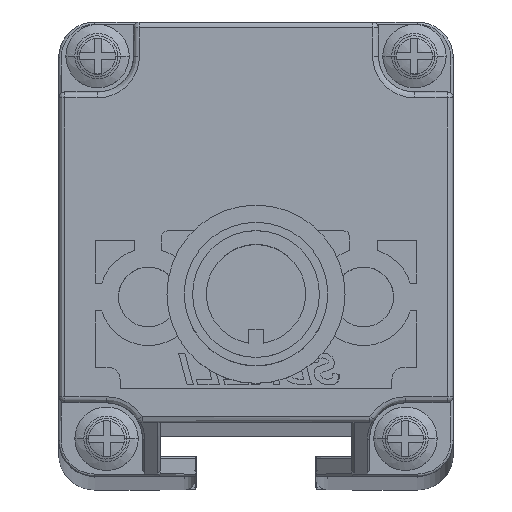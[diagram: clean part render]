
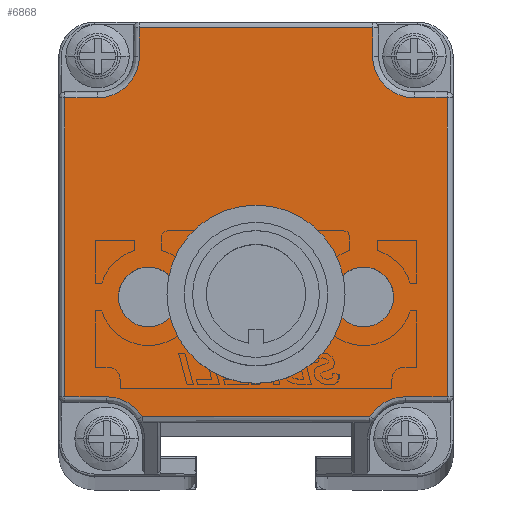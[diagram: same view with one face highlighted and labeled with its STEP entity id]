
A CAD part, top view. The second image highlights one B-rep face of the part: STEP entity #6868.
In plain terms, the highlighted planar face has unit normal (0, 0, 1).
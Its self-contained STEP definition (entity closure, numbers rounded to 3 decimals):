
#2781=CARTESIAN_POINT('',(0.65,-8.054,
525.276));
#2782=DIRECTION('',(0.,0.,1.));
#2783=DIRECTION('',(1.,0.,0.));
#2784=AXIS2_PLACEMENT_3D('',#2781,#2782,#2783);
#2786=CARTESIAN_POINT('',(0.65,-8.054,
525.276));
#2787=DIRECTION('',(0.,0.,1.));
#2788=DIRECTION('',(-1.,0.,0.));
#2789=AXIS2_PLACEMENT_3D('',#2786,#2787,#2788);
#2791=CARTESIAN_POINT('',(9.65,-8.055,525.276));
#2792=DIRECTION('',(0.,0.,1.));
#2793=DIRECTION('',(1.,-0.007,0.));
#2794=AXIS2_PLACEMENT_3D('',#2791,#2792,#2793);
#2796=CARTESIAN_POINT('',(9.65,-8.055,525.276));
#2797=DIRECTION('',(0.,0.,1.));
#2798=DIRECTION('',(-1.,0.007,0.));
#2799=AXIS2_PLACEMENT_3D('',#2796,#2797,#2798);
#2801=CARTESIAN_POINT('',(-8.35,-8.054,
525.276));
#2802=DIRECTION('',(0.,0.,1.));
#2803=DIRECTION('',(1.,0.007,0.));
#2804=AXIS2_PLACEMENT_3D('',#2801,#2802,#2803);
#2806=CARTESIAN_POINT('',(-8.35,-8.054,
525.276));
#2807=DIRECTION('',(0.,0.,1.));
#2808=DIRECTION('',(-1.,-0.007,0.));
#2809=AXIS2_PLACEMENT_3D('',#2806,#2807,#2808);
#2811=CARTESIAN_POINT('',(-11.85,-19.904,
525.276));
#2812=DIRECTION('',(0.,0.,1.));
#2813=DIRECTION('',(0.849,0.528,0.));
#2814=AXIS2_PLACEMENT_3D('',#2811,#2812,#2813);
#2816=CARTESIAN_POINT('',(-12.6,12.094,525.276));
#2817=DIRECTION('',(0.,0.,1.));
#2818=DIRECTION('',(0.,-1.,0.));
#2819=AXIS2_PLACEMENT_3D('',#2816,#2817,#2818);
#2821=CARTESIAN_POINT('',(13.9,12.094,525.276));
#2822=DIRECTION('',(0.,0.,1.));
#2823=DIRECTION('',(-1.,0.,0.));
#2824=AXIS2_PLACEMENT_3D('',#2821,#2822,#2823);
#2826=CARTESIAN_POINT('',(13.15,-19.904,525.276));
#2827=DIRECTION('',(0.,0.,1.));
#2828=DIRECTION('',(0.,1.,0.));
#2829=AXIS2_PLACEMENT_3D('',#2826,#2827,#2828);
#4545=DIRECTION('',(1.,0.,0.));
#4546=VECTOR('',#4545,19.056);
#4547=CARTESIAN_POINT('',(-8.878,-18.056,
525.276));
#4548=LINE('',#4547,#4546);
#4926=DIRECTION('',(0.,1.,0.));
#4927=VECTOR('',#4926,24.998);
#4928=CARTESIAN_POINT('',(16.65,-16.404,525.276));
#4929=LINE('',#4928,#4927);
#4949=DIRECTION('',(1.,0.,0.));
#4950=VECTOR('',#4949,3.5);
#4951=CARTESIAN_POINT('',(13.15,-16.404,525.276));
#4952=LINE('',#4951,#4950);
#4973=DIRECTION('',(-1.,0.,0.));
#4974=VECTOR('',#4973,2.75);
#4975=CARTESIAN_POINT('',(16.65,8.594,525.276));
#4976=LINE('',#4975,#4974);
#5000=DIRECTION('',(0.,1.,0.));
#5001=VECTOR('',#5000,2.35);
#5002=CARTESIAN_POINT('',(10.4,12.094,525.276));
#5003=LINE('',#5002,#5001);
#5211=DIRECTION('',(-1.,0.,0.));
#5212=VECTOR('',#5211,19.5);
#5213=CARTESIAN_POINT('',(10.4,14.444,525.276));
#5214=LINE('',#5213,#5212);
#5250=DIRECTION('',(0.,-1.,0.));
#5251=VECTOR('',#5250,2.35);
#5252=CARTESIAN_POINT('',(-9.1,14.444,525.276));
#5253=LINE('',#5252,#5251);
#5277=DIRECTION('',(-1.,0.,0.));
#5278=VECTOR('',#5277,2.75);
#5279=CARTESIAN_POINT('',(-12.6,8.594,525.276));
#5280=LINE('',#5279,#5278);
#5448=DIRECTION('',(0.,-1.,0.));
#5449=VECTOR('',#5448,24.998);
#5450=CARTESIAN_POINT('',(-15.35,8.594,525.276));
#5451=LINE('',#5450,#5449);
#5487=DIRECTION('',(1.,0.,0.));
#5488=VECTOR('',#5487,3.5);
#5489=CARTESIAN_POINT('',(-15.35,-16.404,
525.276));
#5490=LINE('',#5489,#5488);
#5951=CARTESIAN_POINT('',(12.15,-8.072,525.276));
#5952=VERTEX_POINT('',#5951);
#5953=CARTESIAN_POINT('',(7.15,-8.039,525.276));
#5954=VERTEX_POINT('',#5953);
#5955=CARTESIAN_POINT('',(-8.878,-18.056,
525.276));
#5956=CARTESIAN_POINT('',(-11.85,-16.404,
525.276));
#5957=VERTEX_POINT('',#5955);
#5958=VERTEX_POINT('',#5956);
#5959=CARTESIAN_POINT('',(-15.35,-16.404,
525.276));
#5960=VERTEX_POINT('',#5959);
#5961=CARTESIAN_POINT('',(-15.35,8.594,525.276));
#5962=VERTEX_POINT('',#5961);
#5963=CARTESIAN_POINT('',(-12.6,8.594,525.276));
#5964=VERTEX_POINT('',#5963);
#5965=CARTESIAN_POINT('',(-9.1,12.094,525.276));
#5966=VERTEX_POINT('',#5965);
#5967=CARTESIAN_POINT('',(-9.1,14.444,525.276));
#5968=VERTEX_POINT('',#5967);
#5969=CARTESIAN_POINT('',(10.4,14.444,525.276));
#5970=VERTEX_POINT('',#5969);
#5971=CARTESIAN_POINT('',(10.4,12.094,525.276));
#5972=VERTEX_POINT('',#5971);
#5973=CARTESIAN_POINT('',(13.9,8.594,525.276));
#5974=VERTEX_POINT('',#5973);
#5975=CARTESIAN_POINT('',(16.65,8.594,525.276));
#5976=VERTEX_POINT('',#5975);
#5977=CARTESIAN_POINT('',(16.65,-16.404,525.276));
#5978=VERTEX_POINT('',#5977);
#5979=CARTESIAN_POINT('',(13.15,-16.404,525.276));
#5980=VERTEX_POINT('',#5979);
#5981=CARTESIAN_POINT('',(10.178,-18.056,525.276));
#5982=VERTEX_POINT('',#5981);
#5983=CARTESIAN_POINT('',(-5.85,-8.037,
525.276));
#5984=CARTESIAN_POINT('',(-10.85,-8.07,
525.276));
#5985=VERTEX_POINT('',#5983);
#5986=VERTEX_POINT('',#5984);
#5987=CARTESIAN_POINT('',(3.65,-8.054,525.276));
#5988=CARTESIAN_POINT('',(-2.35,-8.054,
525.276));
#5989=VERTEX_POINT('',#5987);
#5990=VERTEX_POINT('',#5988);
#6817=CARTESIAN_POINT('',(0.65,0.944,
525.276));
#6818=DIRECTION('',(0.,0.,1.));
#6819=DIRECTION('',(1.,0.,0.));
#6820=AXIS2_PLACEMENT_3D('',#6817,#6818,#6819);
#6821=PLANE('',#6820);
#6823=ORIENTED_EDGE('',*,*,#6822,.T.);
#6825=ORIENTED_EDGE('',*,*,#6824,.F.);
#6827=ORIENTED_EDGE('',*,*,#6826,.F.);
#6829=ORIENTED_EDGE('',*,*,#6828,.F.);
#6831=ORIENTED_EDGE('',*,*,#6830,.T.);
#6833=ORIENTED_EDGE('',*,*,#6832,.F.);
#6835=ORIENTED_EDGE('',*,*,#6834,.F.);
#6837=ORIENTED_EDGE('',*,*,#6836,.F.);
#6839=ORIENTED_EDGE('',*,*,#6838,.T.);
#6841=ORIENTED_EDGE('',*,*,#6840,.F.);
#6843=ORIENTED_EDGE('',*,*,#6842,.F.);
#6845=ORIENTED_EDGE('',*,*,#6844,.F.);
#6847=ORIENTED_EDGE('',*,*,#6846,.T.);
#6849=ORIENTED_EDGE('',*,*,#6848,.F.);
#6850=EDGE_LOOP('',(#6823,#6825,#6827,#6829,#6831,#6833,#6835,#6837,#6839,#6841,
#6843,#6845,#6847,#6849));
#6851=FACE_OUTER_BOUND('',#6850,.F.);
#6852=ORIENTED_EDGE('',*,*,#6804,.T.);
#6853=ORIENTED_EDGE('',*,*,#6765,.T.);
#6854=EDGE_LOOP('',(#6852,#6853));
#6855=FACE_BOUND('',#6854,.F.);
#6857=ORIENTED_EDGE('',*,*,#6856,.T.);
#6859=ORIENTED_EDGE('',*,*,#6858,.T.);
#6860=EDGE_LOOP('',(#6857,#6859));
#6861=FACE_BOUND('',#6860,.F.);
#6863=ORIENTED_EDGE('',*,*,#6862,.T.);
#6865=ORIENTED_EDGE('',*,*,#6864,.T.);
#6866=EDGE_LOOP('',(#6863,#6865));
#6867=FACE_BOUND('',#6866,.F.);
#2785=CIRCLE('',#2784,3.);
#2790=CIRCLE('',#2789,3.);
#2795=CIRCLE('',#2794,2.5);
#2800=CIRCLE('',#2799,2.5);
#2805=CIRCLE('',#2804,2.5);
#2810=CIRCLE('',#2809,2.5);
#2815=CIRCLE('',#2814,3.5);
#2820=CIRCLE('',#2819,3.5);
#2825=CIRCLE('',#2824,3.5);
#2830=CIRCLE('',#2829,3.5);
#6765=EDGE_CURVE('',#5954,#5952,#2800,.T.);
#6804=EDGE_CURVE('',#5952,#5954,#2795,.T.);
#6822=EDGE_CURVE('',#5957,#5958,#2815,.T.);
#6824=EDGE_CURVE('',#5960,#5958,#5490,.T.);
#6826=EDGE_CURVE('',#5962,#5960,#5451,.T.);
#6828=EDGE_CURVE('',#5964,#5962,#5280,.T.);
#6830=EDGE_CURVE('',#5964,#5966,#2820,.T.);
#6832=EDGE_CURVE('',#5968,#5966,#5253,.T.);
#6834=EDGE_CURVE('',#5970,#5968,#5214,.T.);
#6836=EDGE_CURVE('',#5972,#5970,#5003,.T.);
#6838=EDGE_CURVE('',#5972,#5974,#2825,.T.);
#6840=EDGE_CURVE('',#5976,#5974,#4976,.T.);
#6842=EDGE_CURVE('',#5978,#5976,#4929,.T.);
#6844=EDGE_CURVE('',#5980,#5978,#4952,.T.);
#6846=EDGE_CURVE('',#5980,#5982,#2830,.T.);
#6848=EDGE_CURVE('',#5957,#5982,#4548,.T.);
#6856=EDGE_CURVE('',#5985,#5986,#2805,.T.);
#6858=EDGE_CURVE('',#5986,#5985,#2810,.T.);
#6862=EDGE_CURVE('',#5989,#5990,#2785,.T.);
#6864=EDGE_CURVE('',#5990,#5989,#2790,.T.);
#6868=ADVANCED_FACE('',(#6851,#6855,#6861,#6867),#6821,.T.);
